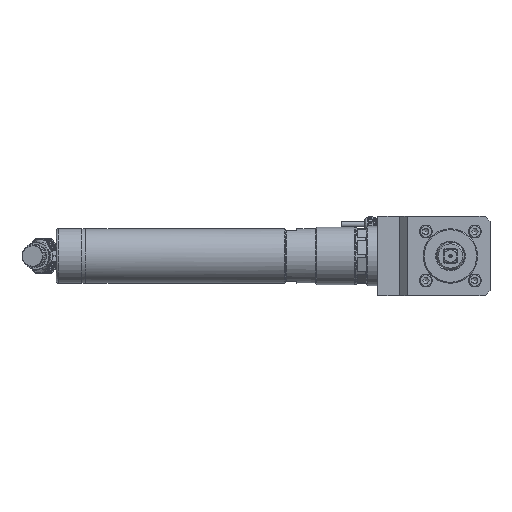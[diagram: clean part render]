
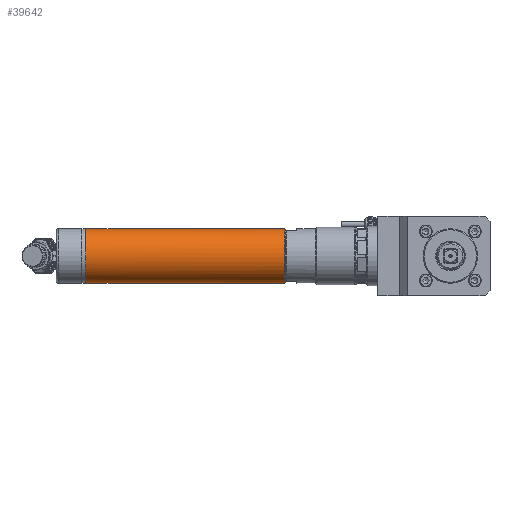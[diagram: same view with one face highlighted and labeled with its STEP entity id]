
A CAD part, front view. The second image highlights one B-rep face of the part: STEP entity #39642.
In plain terms, the highlighted cylindrical face has radius 27.5 mm (diameter 55 mm), a full revolution.
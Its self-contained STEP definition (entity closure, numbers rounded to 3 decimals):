
#608 = ORIENTED_EDGE ( 'NONE', *, *, #13820, .T. ) ;
#2463 = LINE ( 'NONE', #71965, #2534 ) ;
#2534 = VECTOR ( 'NONE', #31215, 1000. ) ;
#4103 = DIRECTION ( 'NONE',  ( 1., 0., 0. ) ) ;
#5124 = ORIENTED_EDGE ( 'NONE', *, *, #61818, .F. ) ;
#6410 = CARTESIAN_POINT ( 'NONE',  ( -143.3, 0., 0. ) ) ;
#8453 = ORIENTED_EDGE ( 'NONE', *, *, #10879, .T. ) ;
#8545 = CYLINDRICAL_SURFACE ( 'NONE', #49329, 27.5 ) ;
#8990 = FACE_OUTER_BOUND ( 'NONE', #31594, .T. ) ;
#9240 = FACE_OUTER_BOUND ( 'NONE', #28445, .T. ) ;
#10879 = EDGE_CURVE ( 'NONE', #19066, #19066, #21562, .T. ) ;
#12289 = DIRECTION ( 'NONE',  ( 0., 0., -1. ) ) ;
#13820 = EDGE_CURVE ( 'NONE', #69955, #38092, #24449, .T. ) ;
#13931 = DIRECTION ( 'NONE',  ( -1., 0., 0. ) ) ;
#15486 = DIRECTION ( 'NONE',  ( 1., 0., 0. ) ) ;
#19066 = VERTEX_POINT ( 'NONE', #49725 ) ;
#19169 = DIRECTION ( 'NONE',  ( -1., 0., 0. ) ) ;
#19915 = VERTEX_POINT ( 'NONE', #59213 ) ;
#20815 = CARTESIAN_POINT ( 'NONE',  ( -283.3, 20.263, -18.592 ) ) ;
#21444 = AXIS2_PLACEMENT_3D ( 'NONE', #69054, #34257, #75004 ) ;
#21562 = CIRCLE ( 'NONE', #21444, 27.5 ) ;
#24449 = LINE ( 'NONE', #53842, #25121 ) ;
#25121 = VECTOR ( 'NONE', #19169, 1000. ) ;
#25447 = LINE ( 'NONE', #30030, #46703 ) ;
#27244 = DIRECTION ( 'NONE',  ( 0., 0., -1. ) ) ;
#28445 = EDGE_LOOP ( 'NONE', ( #608, #53570, #51011, #5124, #37520, #55191 ) ) ;
#30030 = CARTESIAN_POINT ( 'NONE',  ( -213.3, 20.263, -18.592 ) ) ;
#31215 = DIRECTION ( 'NONE',  ( -1., 0., 0. ) ) ;
#31594 = EDGE_LOOP ( 'NONE', ( #8453 ) ) ;
#31749 = VERTEX_POINT ( 'NONE', #72759 ) ;
#31758 = AXIS2_PLACEMENT_3D ( 'NONE', #50294, #15486, #56061 ) ;
#33045 = CARTESIAN_POINT ( 'NONE',  ( -68.109, 0., 0. ) ) ;
#34061 = CARTESIAN_POINT ( 'NONE',  ( -143.3, 20.263, -18.592 ) ) ;
#34257 = DIRECTION ( 'NONE',  ( -1., 0., 0. ) ) ;
#37520 = ORIENTED_EDGE ( 'NONE', *, *, #50799, .F. ) ;
#38092 = VERTEX_POINT ( 'NONE', #53152 ) ;
#38837 = VERTEX_POINT ( 'NONE', #20815 ) ;
#39642 = ADVANCED_FACE ( 'NONE', ( #8990, #9240 ), #8545, .T. ) ;
#41349 = VECTOR ( 'NONE', #13931, 1000. ) ;
#41662 = LINE ( 'NONE', #48792, #41349 ) ;
#42452 = VERTEX_POINT ( 'NONE', #34061 ) ;
#46703 = VECTOR ( 'NONE', #70759, 1000. ) ;
#47181 = DIRECTION ( 'NONE',  ( -1., 0., 0. ) ) ;
#48792 = CARTESIAN_POINT ( 'NONE',  ( -143.3, 20.263, -18.592 ) ) ;
#49329 = AXIS2_PLACEMENT_3D ( 'NONE', #33045, #4103, #27244 ) ;
#49416 = CIRCLE ( 'NONE', #53377, 27.5 ) ;
#49725 = CARTESIAN_POINT ( 'NONE',  ( -82.3, 0., -27.5 ) ) ;
#50294 = CARTESIAN_POINT ( 'NONE',  ( -283.3, 0., 0. ) ) ;
#50799 = EDGE_CURVE ( 'NONE', #42452, #31749, #41662, .T. ) ;
#51011 = ORIENTED_EDGE ( 'NONE', *, *, #71580, .T. ) ;
#53152 = CARTESIAN_POINT ( 'NONE',  ( -213.3, 20.263, 18.592 ) ) ;
#53377 = AXIS2_PLACEMENT_3D ( 'NONE', #6410, #47181, #12289 ) ;
#53570 = ORIENTED_EDGE ( 'NONE', *, *, #57551, .T. ) ;
#53842 = CARTESIAN_POINT ( 'NONE',  ( -143.3, 20.263, 18.592 ) ) ;
#55191 = ORIENTED_EDGE ( 'NONE', *, *, #66169, .F. ) ;
#55564 = CARTESIAN_POINT ( 'NONE',  ( -143.3, 20.263, 18.592 ) ) ;
#56061 = DIRECTION ( 'NONE',  ( 0., 0., -1. ) ) ;
#57551 = EDGE_CURVE ( 'NONE', #38092, #19915, #2463, .T. ) ;
#59213 = CARTESIAN_POINT ( 'NONE',  ( -283.3, 20.263, 18.592 ) ) ;
#61818 = EDGE_CURVE ( 'NONE', #31749, #38837, #25447, .T. ) ;
#66169 = EDGE_CURVE ( 'NONE', #69955, #42452, #49416, .T. ) ;
#69054 = CARTESIAN_POINT ( 'NONE',  ( -82.3, 0., 0. ) ) ;
#69955 = VERTEX_POINT ( 'NONE', #55564 ) ;
#70759 = DIRECTION ( 'NONE',  ( -1., 0., 0. ) ) ;
#71043 = CIRCLE ( 'NONE', #31758, 27.5 ) ;
#71580 = EDGE_CURVE ( 'NONE', #19915, #38837, #71043, .T. ) ;
#71965 = CARTESIAN_POINT ( 'NONE',  ( -213.3, 20.263, 18.592 ) ) ;
#72759 = CARTESIAN_POINT ( 'NONE',  ( -213.3, 20.263, -18.592 ) ) ;
#75004 = DIRECTION ( 'NONE',  ( 0., 0., -1. ) ) ;
